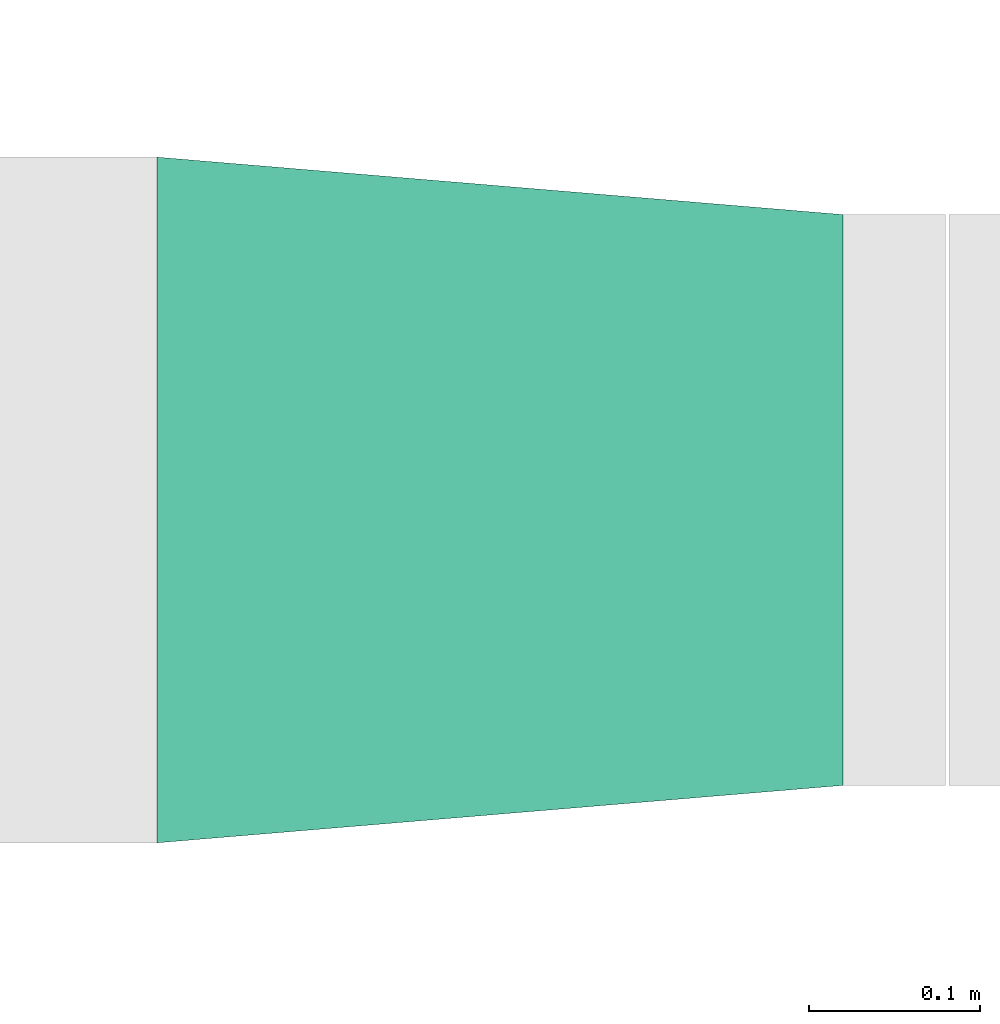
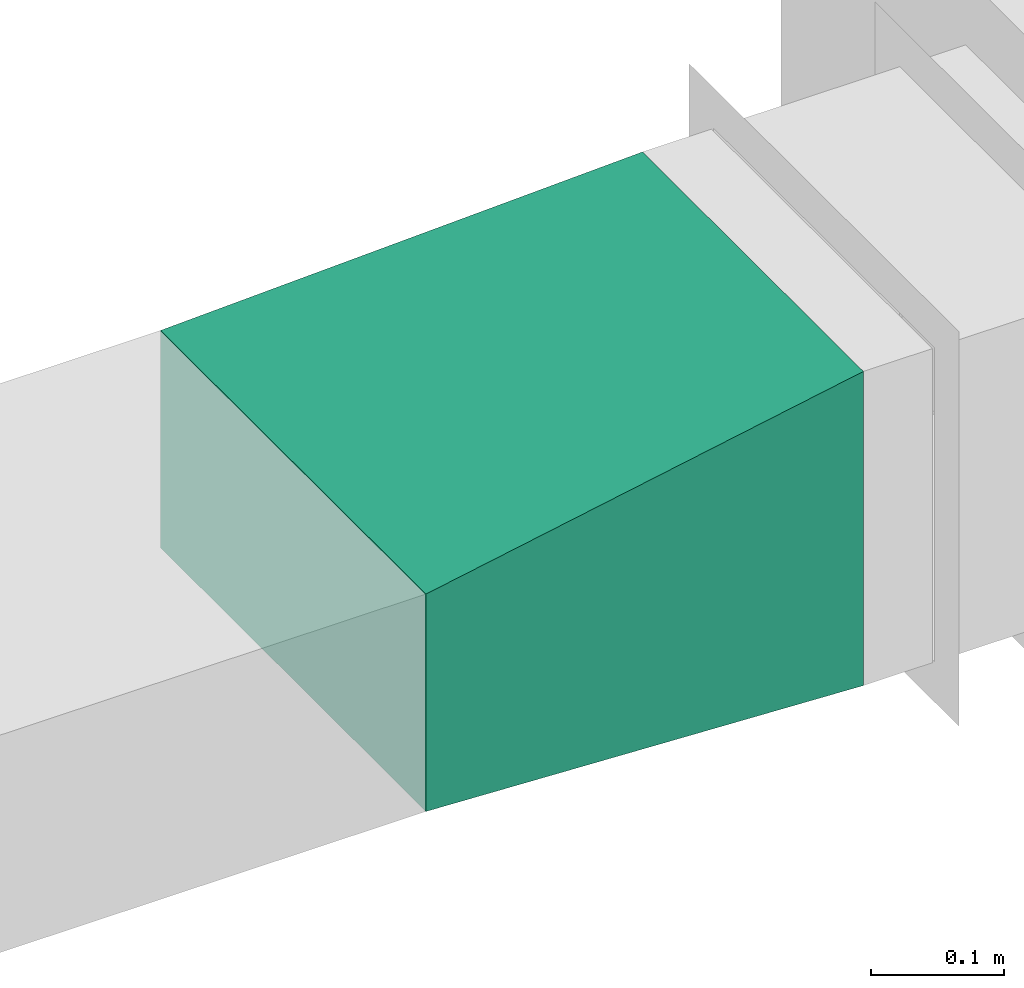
# One storey, part 11 of 15: 1 flow fitting.
"""IFC2X3 building model written with IfcOpenShell, lengths in millimetres."""

from ifc_helpers import new_model, entity, si_unit, converted_unit, derived_unit, direction, frame, origin, place, context, subcontext, project, spatial, faceted_brep, source, transform, mapped, material, type_object, type_shapes, element, save


model = new_model("IFC2X3")

# Units and contexts
model_context = context("Model", 3, precision=0.01, world=origin(), true_north=direction((6.123233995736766e-17, 1.0)))
body_context = subcontext(model_context, "Body", "Model", "MODEL_VIEW")
ifc_project = project(units=[si_unit("LENGTHUNIT", "METRE", prefix="MILLI"), converted_unit("PLANEANGLEUNIT", "DEGREE", entity("IfcPlaneAngleMeasure", 0.017453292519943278), si_unit("PLANEANGLEUNIT", "RADIAN"), dimensions=[0, 0, 0, 0, 0, 0, 0]), si_unit("AREAUNIT", "SQUARE_METRE"), derived_unit("THERMALTRANSMITTANCEUNIT", [(si_unit("MASSUNIT", "GRAM", prefix="KILO"), 1), (si_unit("THERMODYNAMICTEMPERATUREUNIT", "KELVIN"), -1), (si_unit("TIMEUNIT", "SECOND"), -3)])], contexts=[model_context])

# Site, building, storey
site_placement = place(None, origin())
site = spatial("IfcSite", under=ifc_project, at=site_placement, Name="Default", CompositionType="ELEMENT")
building_placement = place(site_placement, origin())
building = spatial("IfcBuilding", under=site, at=building_placement, Name="Praça Pedro II, 1301 - Centro (Sul), Teresina - PI, 64001-100", CompositionType="ELEMENT")
storey_placement = place(building_placement, frame((0.0, 0.0, 3020.0)))
storey = spatial("IfcBuildingStorey", under=building, at=storey_placement, Name="1PAV", CompositionType="ELEMENT", Elevation=3020.0)

# Flow fitting
ifc_material = material(Name="<Unnamed>")
duct_fitting_type = type_object("IfcDuctFittingType", Name="M_Rectangular Transition - L:400 mm (L)", PredefinedType="NOTDEFINED", material=ifc_material)
shared_shape = source(origin(), body_context, "Body", "Brep", [
    faceted_brep([(400.0, -166.50000000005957, 144.4999999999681), (400.0, -166.50000000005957, -144.50000000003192), (400.0, 166.49999999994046, -144.5000000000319), (400.0, 166.49999999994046, 144.4999999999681), (0.0, -200.0, 100.0), (0.0, 200.0, 100.0), (0.0, 200.0, -100.0), (0.0, -200.0, -100.0)], [[[0, 1, 2, 3]], [[4, 5, 6, 7]], [[4, 7, 1, 0]], [[7, 6, 2, 1]], [[6, 5, 3, 2]], [[5, 4, 0, 3]]]),
])
type_shapes(duct_fitting_type, [shared_shape])
flow_fitting_placement = place(storey_placement, frame((11384.412533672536, -51563.17265781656, 1625.3972094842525)))
element("IfcFlowFitting", 1, at=flow_fitting_placement, inside=storey, type_object=duct_fitting_type, material=ifc_material, Name="M_Rectangular Transition - L:400 mm (L)", ObjectType="M_Rectangular Transition - L:400 mm (L)", context=body_context, shape_type="MappedRepresentation", body=[
    mapped(shared_shape, transform((0.0, 0.0, 0.0), scale=1.0)),
])

save(model, "model.ifc")
